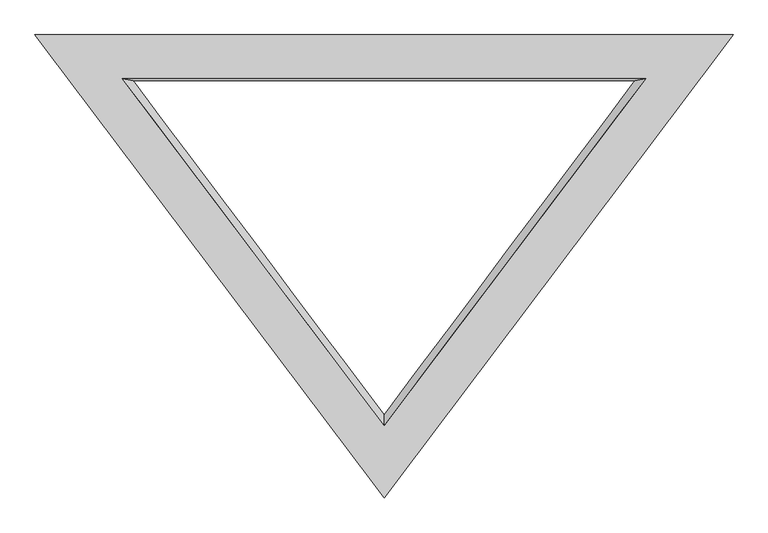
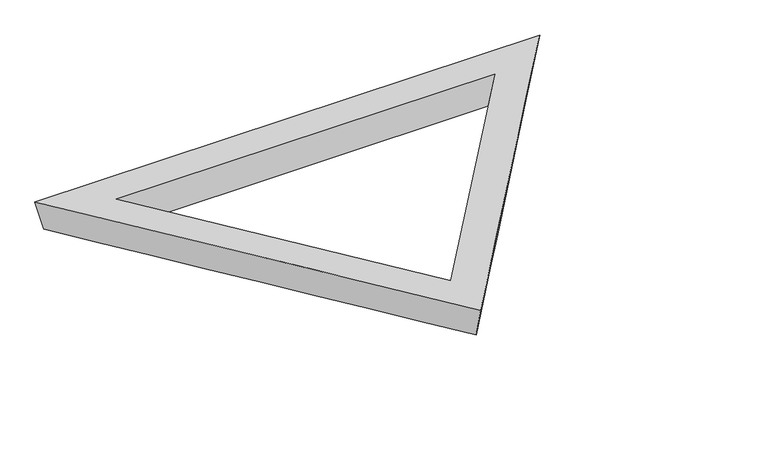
"""IFC4 building model written with IfcOpenShell, lengths in millimetres: plate geometry."""

from ifc_helpers import new_model, si_unit, frame, origin, place, context, project, spatial, source, transform, mapped, element, save
from ifc_brep_helpers import plane_surface, spline_surface, advanced_brep


def plate_d0194420(model_context):
    return source(origin(), model_context, "Body", "AdvancedBrep", [
        advanced_brep(
        [(4927.4062988, 5576.4059526, 0.0), (4877.8995185, 5586.7077969, 196.6333943), (6096.0, 3970.3307663, 197.2902962), (6096.0, 4019.3114392, 0.0), (7314.1004815, 5586.7077969, 196.6333943), (7264.5937012, 5576.4059526, 0.0), (6096.0, 3680.7880947, 0.0), (7671.1550774, 5779.6059526, 0.0), (7721.6713147, 5789.9077801, 196.5508131), (6096.0, 3632.6984099, 197.4275113), (4520.8449226, 5779.6059526, 0.0), (4470.3286853, 5789.9077801, 196.5508131)],
        [
            (0, 1),
            (1, 2),
            (2, 3),
            (3, 0),
            (2, 4),
            (4, 5),
            (5, 3),
            (0, 5),
            (4, 1),
            (6, 7),
            (7, 8),
            (8, 9),
            (9, 6),
            (7, 10),
            (10, 11),
            (11, 8),
            (9, 11),
            (10, 6),
        ],
        [
            spline_surface(1, 1, [[(4927.4062988, 5576.4059526, 0.0), (6096.0, 4019.3114392, 0.0)], [(4877.8995185, 5586.7077969, 196.6333943), (6096.0, 3970.3307663, 197.2902962)]], [2, 2], [2, 2], [0.0, 1.0], [0.0, 1.0]),
            spline_surface(1, 1, [[(6096.0, 4019.3114392, 0.0), (7264.5937012, 5576.4059526, 0.0)], [(6096.0, 3970.3307663, 197.2902962), (7314.1004815, 5586.7077969, 196.6333943)]], [2, 2], [2, 2], [0.0, 1.0], [0.0, 1.0]),
            plane_surface(frame((6096.0, 5576.4059526, 0.0), z_axis=(0.0, -0.9986304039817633, 0.05231936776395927), x_axis=(-1.0, 0.0, 0.0))),
            spline_surface(1, 1, [[(6096.0, 3680.7880947, 0.0), (6096.0, 3632.6984099, 197.4275113)], [(7671.1550774, 5779.6059526, 0.0), (7721.6713147, 5789.9077801, 196.5508131)]], [2, 2], [2, 2], [0.0, 1.0], [0.0, 1.0]),
            plane_surface(frame((6096.0, 5779.6059526, 0.0), z_axis=(0.0, 0.9986292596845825, -0.05234120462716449), x_axis=(-1.0, 0.0, 0.0))),
            spline_surface(1, 1, [[(4520.8449226, 5779.6059526, 0.0), (4470.3286853, 5789.9077801, 196.5508131)], [(6096.0, 3680.7880947, 0.0), (6096.0, 3632.6984099, 197.4275113)]], [2, 2], [2, 2], [0.0, 1.0], [0.0, 1.0]),
            plane_surface(frame((6096.0, 5070.83799, 196.8430458), z_axis=(0.0, 0.00040640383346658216, 0.9999999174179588), x_axis=(0.6018380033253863, -0.7986181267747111, 0.0003245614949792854))),
            plane_surface(frame((6096.0, 5080.0, 0.0), z_axis=(0.0, 0.0, -1.0), x_axis=(-0.6002540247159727, 0.799809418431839, 0.0))),
        ],
        [
            (0, [[1, 2, 3, 4]]),
            (1, [[-3, 5, 6, 7]]),
            (2, [[-1, 8, -6, 9]]),
            (3, [[10, 11, 12, 13]]),
            (4, [[-11, 14, 15, 16]]),
            (5, [[-13, 17, -15, 18]]),
            (6, [[-12, -16, -17], [-2, -9, -5]]),
            (7, [[-10, -18, -14], [-4, -7, -8]]),
        ],
    ),
    ])


if __name__ == "__main__":
    model = new_model("IFC4")
    model_context = context("Model", 3, world=origin())
    ifc_project = project(units=[si_unit("LENGTHUNIT", "METRE", prefix="MILLI")], contexts=[model_context])
    site = spatial("IfcSite", under=ifc_project)
    building = spatial("IfcBuilding", under=site)
    placement = place(None, origin())
    plate_shape = plate_d0194420(model_context)
    element("IfcPlate", 1, ObjectType="tn_cpanel_patbase_triangle_flat_seamless_frame_02_cylinder : tn_cpanel_pattern_mullion_t8\"xh8\"", at=placement, inside=building, context=model_context, shape_type="MappedRepresentation", body=[
        mapped(plate_shape, transform((0.0, 0.0, 0.0), x_axis=(1.0, 0.0, 0.0), y_axis=(0.0, 1.0, 0.0), z_axis=(0.0, 0.0, 1.0))),
    ])
    save(model, "model.ifc")
